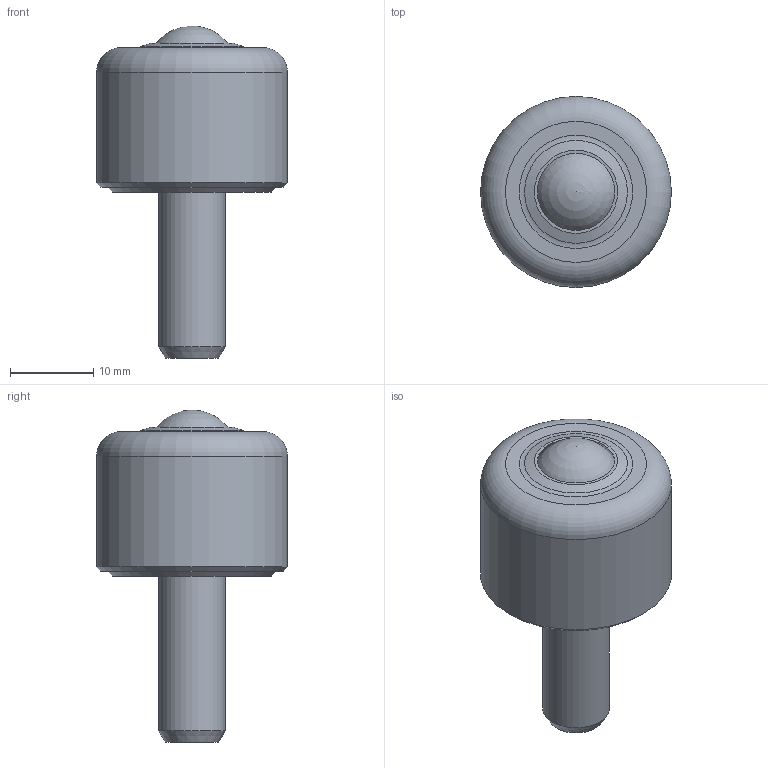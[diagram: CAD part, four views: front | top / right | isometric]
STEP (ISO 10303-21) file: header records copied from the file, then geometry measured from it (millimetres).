
FILE_DESCRIPTION(/* description */ (''),/* implementation_level */ '2;1');
FILE_NAME(/* name */ 'Z:\80-CAD共有ファイル\製品3D\X2\30C730FC30BF\X0\\04-IS-SN\IS-10SN.stp',/* time_stamp */ '2015-01-06T15:45:02+09:00',/* author */ ('yamaki'),/* organization */ (''),/* preprocessor_version */ 'ST-DEVELOPER v15.6',/* originating_system */ 'Autodesk Inventor 2015',/* authorisation */ '');
FILE_SCHEMA (('AUTOMOTIVE_DESIGN { 1 0 10303 214 3 1 1 }'));
Length unit declared in the file: millimetre
Products named in the file (3): 0410AT-01; 0825; 0410AA
Bounding box: 23 x 23 x 40 mm (x, y, z)
Volume: 8041.9 mm3; surface area: 3299.3 mm2
Topology: 2 solids, 2 shells, 29 faces, 56 edges, 35 vertices
Faces by surface type: plane 14, cone 8, cylinder 4, torus 2, sphere 1
Full cylindrical faces by diameter (mm): 6.647 x1, 8 x1, 20.1 x1, 23 x1
Entity records: 727 total; most frequent: DIRECTION 120, CARTESIAN_POINT 116, ORIENTED_EDGE 76, AXIS2_PLACEMENT_3D 54, EDGE_LOOP 48, EDGE_CURVE 38, VERTEX_POINT 32, STYLED_ITEM 31
